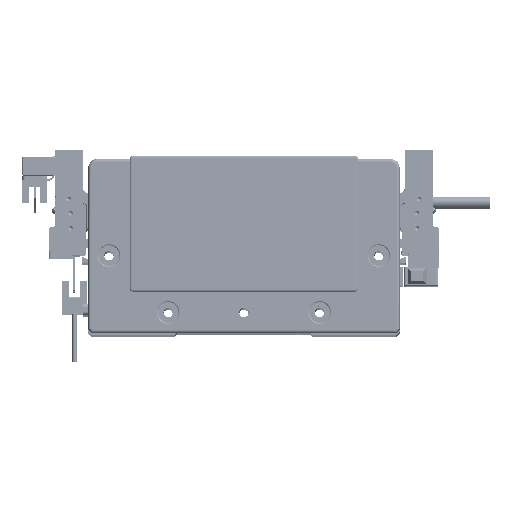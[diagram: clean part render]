
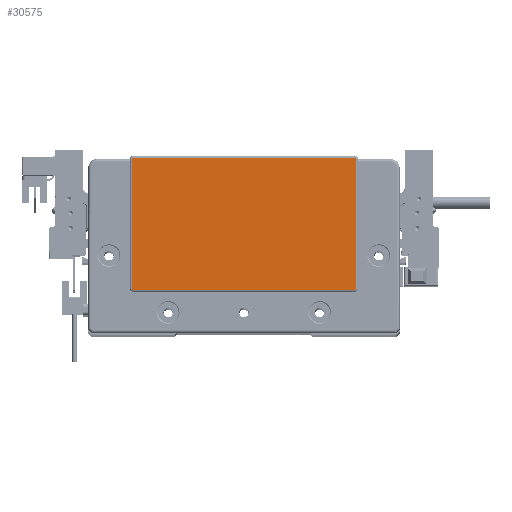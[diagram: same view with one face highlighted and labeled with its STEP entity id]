
A CAD part, top view. The second image highlights one B-rep face of the part: STEP entity #30575.
In plain terms, the highlighted planar face has unit normal (0, 0, 1) as drawn and (0, 0, -1) by its records, which use the part's own axes.
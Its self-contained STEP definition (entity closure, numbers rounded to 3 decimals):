
#695 = VERTEX_POINT ( 'NONE', #36036 ) ;
#2293 = AXIS2_PLACEMENT_3D ( 'NONE', #78062, #71517, #24318 ) ;
#3586 = DIRECTION ( 'NONE',  ( -1., 0., 0. ) ) ;
#6131 = LINE ( 'NONE', #60803, #75891 ) ;
#6941 = CARTESIAN_POINT ( 'NONE',  ( 58.75, 45.8, -2. ) ) ;
#6944 = VERTEX_POINT ( 'NONE', #17916 ) ;
#10701 = DIRECTION ( 'NONE',  ( 0., 0., -1. ) ) ;
#12188 = VERTEX_POINT ( 'NONE', #80143 ) ;
#12319 = ORIENTED_EDGE ( 'NONE', *, *, #19243, .T. ) ;
#12871 = DIRECTION ( 'NONE',  ( -1., 0., 0. ) ) ;
#13652 = ORIENTED_EDGE ( 'NONE', *, *, #55430, .T. ) ;
#14871 = VECTOR ( 'NONE', #49572, 1000. ) ;
#17870 = EDGE_CURVE ( 'NONE', #12188, #70714, #47927, .T. ) ;
#17916 = CARTESIAN_POINT ( 'NONE',  ( -58.75, -23.8, -2. ) ) ;
#18161 = VERTEX_POINT ( 'NONE', #70184 ) ;
#18414 = AXIS2_PLACEMENT_3D ( 'NONE', #72784, #46557, #12871 ) ;
#18730 = CARTESIAN_POINT ( 'NONE',  ( -59.25, 45.3, -2. ) ) ;
#18933 = FACE_OUTER_BOUND ( 'NONE', #28737, .T. ) ;
#19243 = EDGE_CURVE ( 'NONE', #6944, #12188, #36313, .T. ) ;
#20565 = EDGE_CURVE ( 'NONE', #70714, #18161, #47741, .T. ) ;
#23792 = CARTESIAN_POINT ( 'NONE',  ( 58.75, 45.8, -2. ) ) ;
#24278 = CARTESIAN_POINT ( 'NONE',  ( -58.75, -23.3, -2. ) ) ;
#24318 = DIRECTION ( 'NONE',  ( -1., 0., 0. ) ) ;
#24625 = PLANE ( 'NONE',  #26398 ) ;
#25426 = VECTOR ( 'NONE', #69308, 1000. ) ;
#25842 = ORIENTED_EDGE ( 'NONE', *, *, #17870, .T. ) ;
#26346 = VERTEX_POINT ( 'NONE', #23792 ) ;
#26398 = AXIS2_PLACEMENT_3D ( 'NONE', #37738, #38585, #31181 ) ;
#26638 = LINE ( 'NONE', #6941, #81460 ) ;
#28737 = EDGE_LOOP ( 'NONE', ( #71760, #59867, #77991, #12319, #25842, #46411, #13652, #40537 ) ) ;
#30575 = ADVANCED_FACE ( 'NONE', ( #18933 ), #24625, .T. ) ;
#31181 = DIRECTION ( 'NONE',  ( -1., 0., 0. ) ) ;
#34232 = DIRECTION ( 'NONE',  ( 0., 0., -1. ) ) ;
#36036 = CARTESIAN_POINT ( 'NONE',  ( 59.25, 45.3, -2. ) ) ;
#36313 = CIRCLE ( 'NONE', #82425, 0.5 ) ;
#37738 = CARTESIAN_POINT ( 'NONE',  ( 0., 0., -2. ) ) ;
#38585 = DIRECTION ( 'NONE',  ( 0., 0., -1. ) ) ;
#38840 = VERTEX_POINT ( 'NONE', #50554 ) ;
#38952 = VERTEX_POINT ( 'NONE', #79750 ) ;
#39132 = EDGE_CURVE ( 'NONE', #695, #38840, #75331, .T. ) ;
#39978 = CIRCLE ( 'NONE', #2293, 0.5 ) ;
#40537 = ORIENTED_EDGE ( 'NONE', *, *, #78812, .T. ) ;
#40770 = CARTESIAN_POINT ( 'NONE',  ( 58.75, -23.3, -2. ) ) ;
#43945 = DIRECTION ( 'NONE',  ( -1., 0., 0. ) ) ;
#46411 = ORIENTED_EDGE ( 'NONE', *, *, #20565, .T. ) ;
#46557 = DIRECTION ( 'NONE',  ( 0., 0., -1. ) ) ;
#46779 = AXIS2_PLACEMENT_3D ( 'NONE', #40770, #34232, #3586 ) ;
#47741 = CIRCLE ( 'NONE', #18414, 0.5 ) ;
#47927 = LINE ( 'NONE', #81137, #25426 ) ;
#49572 = DIRECTION ( 'NONE',  ( 0., -1., 0. ) ) ;
#50554 = CARTESIAN_POINT ( 'NONE',  ( 59.25, -23.3, -2. ) ) ;
#55430 = EDGE_CURVE ( 'NONE', #18161, #26346, #26638, .T. ) ;
#59867 = ORIENTED_EDGE ( 'NONE', *, *, #84949, .T. ) ;
#60803 = CARTESIAN_POINT ( 'NONE',  ( -58.75, -23.8, -2. ) ) ;
#62253 = CARTESIAN_POINT ( 'NONE',  ( 59.25, -23.3, -2. ) ) ;
#69308 = DIRECTION ( 'NONE',  ( 0., 1., 0. ) ) ;
#70184 = CARTESIAN_POINT ( 'NONE',  ( -58.75, 45.8, -2. ) ) ;
#70714 = VERTEX_POINT ( 'NONE', #18730 ) ;
#71517 = DIRECTION ( 'NONE',  ( 0., 0., -1. ) ) ;
#71760 = ORIENTED_EDGE ( 'NONE', *, *, #39132, .T. ) ;
#72784 = CARTESIAN_POINT ( 'NONE',  ( -58.75, 45.3, -2. ) ) ;
#74314 = DIRECTION ( 'NONE',  ( -1., 0., 0. ) ) ;
#74711 = CIRCLE ( 'NONE', #46779, 0.5 ) ;
#74719 = EDGE_CURVE ( 'NONE', #38952, #6944, #6131, .T. ) ;
#75331 = LINE ( 'NONE', #62253, #14871 ) ;
#75891 = VECTOR ( 'NONE', #74314, 1000. ) ;
#77991 = ORIENTED_EDGE ( 'NONE', *, *, #74719, .T. ) ;
#78062 = CARTESIAN_POINT ( 'NONE',  ( 58.75, 45.3, -2. ) ) ;
#78812 = EDGE_CURVE ( 'NONE', #26346, #695, #39978, .T. ) ;
#79750 = CARTESIAN_POINT ( 'NONE',  ( 58.75, -23.8, -2. ) ) ;
#79954 = DIRECTION ( 'NONE',  ( 1., 0., 0. ) ) ;
#80143 = CARTESIAN_POINT ( 'NONE',  ( -59.25, -23.3, -2. ) ) ;
#81137 = CARTESIAN_POINT ( 'NONE',  ( -59.25, 45.3, -2. ) ) ;
#81460 = VECTOR ( 'NONE', #79954, 1000. ) ;
#82425 = AXIS2_PLACEMENT_3D ( 'NONE', #24278, #10701, #43945 ) ;
#84949 = EDGE_CURVE ( 'NONE', #38840, #38952, #74711, .T. ) ;
